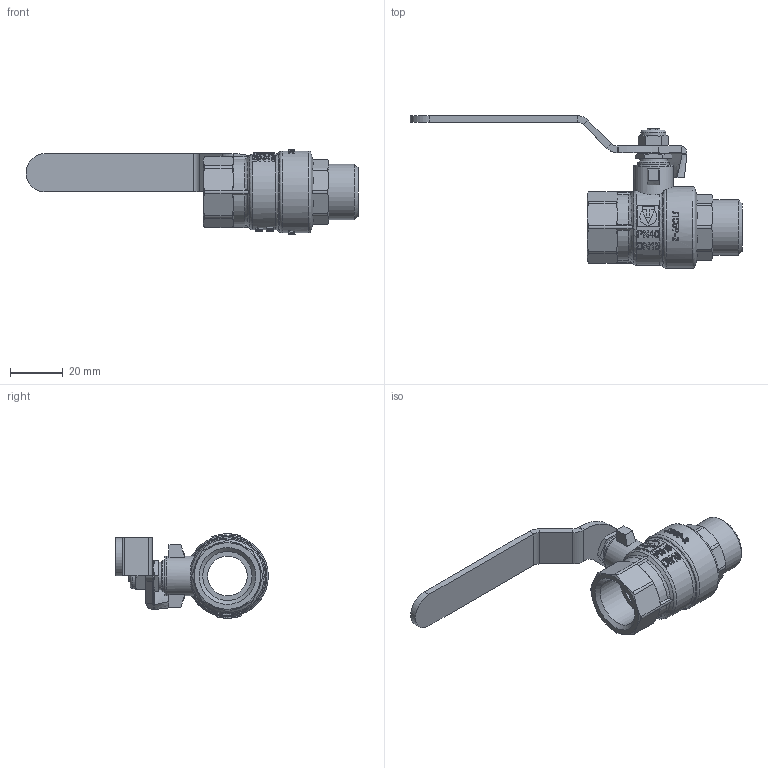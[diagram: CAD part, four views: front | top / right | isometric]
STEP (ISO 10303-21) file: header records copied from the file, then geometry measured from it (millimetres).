
FILE_DESCRIPTION(('STEP AP203'), '1');
FILE_NAME('VT.215S.N.04', '', ('UNSPECIFIED'), ('UNSPECIFIED'), 'C3D Converter', 'C3D Toolkit', '');
FILE_SCHEMA(('CONFIG_CONTROL_DESIGN'));
Length unit declared in the file: millimetre
Products named in the file (1): ВР.491816.012.000-01
Bounding box: 125.52 x 57.68 x 31.9 mm (x, y, z)
Volume: 27581.4 mm3; surface area: 13921.1 mm2
Topology: 1 solids, 1 shells, 1460 faces, 4138 edges, 2730 vertices
Faces by surface type: plane 1298, cylinder 94, cone 54, torus 10, bspline 4
Full cylindrical faces by diameter (mm): 6 x1, 8 x1, 9.5 x1, 10.5 x1, 12 x1, 15 x2, 18.632 x1, 20.955 x1, 30.9 x1
Entity records: 50177 total; most frequent: CARTESIAN_POINT 18321, ORIENTED_EDGE 8224, DIRECTION 5214, EDGE_CURVE 4112, VERTEX_POINT 2729, AXIS2_PLACEMENT_3D 1809, LINE 1596, VECTOR 1596
